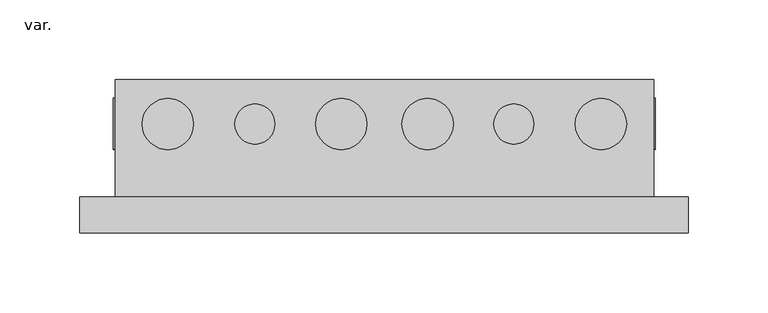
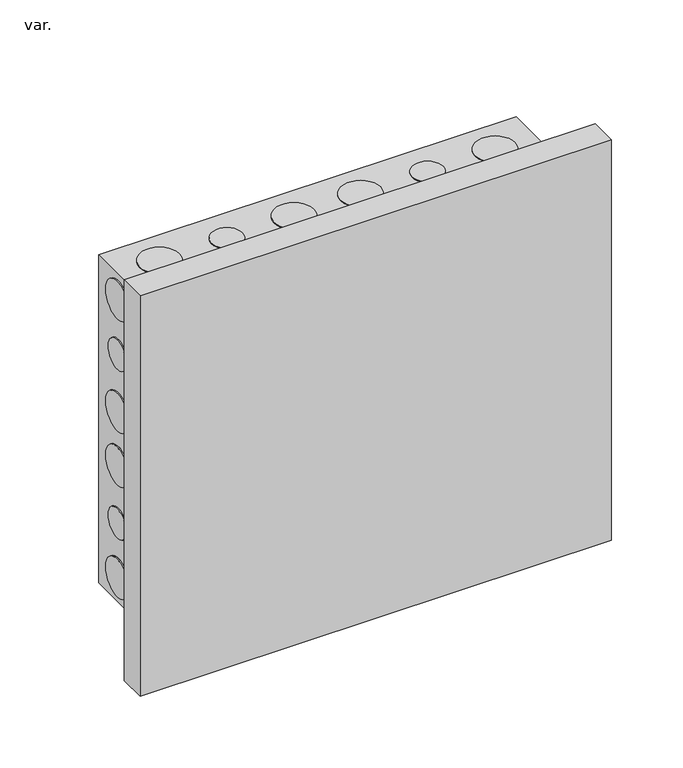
"""IFC4 building model written with IfcOpenShell, lengths in millimetres: pipe fitting geometry, AmancoWavin_ConexõesdoConduite_LinhaEletricaCorrugadoCuadroDistribucao24D : var.."""

import ifcopenshell
import ifcopenshell.guid

model = None  # the IFC model being written
_history = None  # IfcOwnerHistory: only IFC2X3 demands one
_inside = {}  # id of a spatial element -> (the spatial element, [elements in it])
_under = {}  # id of a project, library or spatial element -> (it, [spatial elements below it])
_declared = {}  # id of a project -> (the project, [libraries it declares])
_typed = {}  # id of a type object -> (the type object, [elements of that type])
_made_of = {}  # id of a material, layer set ... -> (it, [elements and type objects made of it])


def new_model(schema):
    """Start an empty IFC model of exactly this schema.

    Asked for "IFC4X3", IfcOpenShell would pick the latest addendum, in which some entities
    have other attributes; the version numbers below select the first issue.
    IFC2X3 requires an IfcOwnerHistory on every rooted entity: one is made here for all.
    """
    global model, _history
    if schema == "IFC4X3":
        model = ifcopenshell.file(schema_version=(4, 3, 0, 0))
    else:
        model = ifcopenshell.file(schema=schema)
    _inside.clear()
    _under.clear()
    _declared.clear()
    _typed.clear()
    _made_of.clear()
    _history = None
    if model.schema == "IFC2X3":
        org = make("IfcOrganization", Name="unknown")
        user = make(
            "IfcPersonAndOrganization",
            ThePerson=make("IfcPerson", FamilyName="unknown"),
            TheOrganization=org,
        )
        app = make(
            "IfcApplication",
            ApplicationDeveloper=org,
            Version="unknown",
            ApplicationFullName="unknown",
            ApplicationIdentifier="unknown",
        )
        _history = make(
            "IfcOwnerHistory",
            OwningUser=user,
            OwningApplication=app,
            ChangeAction="ADDED",
            CreationDate=0,
        )
    return model


def make(cls, **values):
    """One entity of the class cls with the attributes given. An attribute that is None is left unset."""
    return model.create_entity(
        cls, **{name: value for name, value in values.items() if value is not None}
    )


def rooted(cls, **values):
    """An entity with a GlobalId (a new one), such as an element, a storey or a relation."""
    return make(cls, GlobalId=ifcopenshell.guid.new(), OwnerHistory=_history, **values)


def si_unit(unit_type, name, prefix=None):
    """IfcSIUnit, for example si_unit("LENGTHUNIT", "METRE", prefix="MILLI")."""
    return make("IfcSIUnit", UnitType=unit_type, Prefix=prefix, Name=name)


def assignment(units):
    """IfcUnitAssignment: the units of a project."""
    return None if units is None else make("IfcUnitAssignment", Units=units)


def point(xyz):
    """IfcCartesianPoint."""
    return None if xyz is None else make("IfcCartesianPoint", Coordinates=xyz)


def direction(xyz):
    """IfcDirection."""
    return None if xyz is None else make("IfcDirection", DirectionRatios=xyz)


def frame(location, z_axis=None, x_axis=None):
    """IfcAxis2Placement3D, a coordinate frame: its origin and axes. An axis left out is left unset."""
    return make(
        "IfcAxis2Placement3D",
        Location=point(location),
        Axis=direction(z_axis),
        RefDirection=direction(x_axis),
    )


def origin():
    """The frame at (0, 0, 0) with its axes left unset."""
    return frame((0.0, 0.0, 0.0))


def place(relative_to, where):
    """IfcLocalPlacement: puts the frame where relative to a parent placement (None: the world)."""
    return make(
        "IfcLocalPlacement", PlacementRelTo=relative_to, RelativePlacement=where
    )


def context(
    kind, dimensions, precision=None, world=None, true_north=None, identifier=None
):
    """IfcGeometricRepresentationContext, for example the 3D "Model" context."""
    return make(
        "IfcGeometricRepresentationContext",
        ContextIdentifier=identifier,
        ContextType=kind,
        CoordinateSpaceDimension=dimensions,
        Precision=precision,
        WorldCoordinateSystem=world,
        TrueNorth=true_north,
    )


def project(units=None, contexts=None):
    """IfcProject with its units and contexts."""
    return rooted(
        "IfcProject",
        Name="project",
        RepresentationContexts=contexts,
        UnitsInContext=assignment(units),
    )


def spatial(cls, under=None, at=None, **own):
    """A site, building, storey or space (cls), placed at a placement, below another one or the project."""
    s = rooted(cls, ObjectPlacement=at, **own)
    if under is not None:
        _under.setdefault(under.id(), (under, []))[1].append(s)
    return s


def polyline(points):
    """IfcPolyline through the points."""
    return make("IfcPolyline", Points=[point(p) for p in points])


def circle_curve(where, radius):
    """IfcCircle in the frame where."""
    return make("IfcCircle", Position=where, Radius=radius)


def shape(context_of_items, identifier, shape_type, items):
    """IfcShapeRepresentation: the items that make up one representation, for example the "Body"."""
    return make(
        "IfcShapeRepresentation",
        ContextOfItems=context_of_items,
        RepresentationIdentifier=identifier,
        RepresentationType=shape_type,
        Items=items,
    )


def source(mapping_origin, context_of_items, identifier, shape_type, items):
    """IfcRepresentationMap: a shape defined once, which mapped items show again and again."""
    return make(
        "IfcRepresentationMap",
        MappingOrigin=mapping_origin,
        MappedRepresentation=shape(context_of_items, identifier, shape_type, items),
    )


def transform(
    local_origin,
    x_axis=None,
    y_axis=None,
    z_axis=None,
    scale=None,
    scale2=None,
    scale3=None,
    uniform=True,
):
    """IfcCartesianTransformationOperator3D, or its non-uniform kind. x_axis, y_axis, z_axis: its Axis1, 2, 3."""
    if uniform:
        return make(
            "IfcCartesianTransformationOperator3D",
            Axis1=direction(x_axis),
            Axis2=direction(y_axis),
            LocalOrigin=point(local_origin),
            Scale=scale,
            Axis3=direction(z_axis),
        )
    return make(
        "IfcCartesianTransformationOperator3DnonUniform",
        Axis1=direction(x_axis),
        Axis2=direction(y_axis),
        LocalOrigin=point(local_origin),
        Scale=scale,
        Axis3=direction(z_axis),
        Scale2=scale2,
        Scale3=scale3,
    )


def mapped(mapping_source, mapping_target):
    """IfcMappedItem: shows the shape of a source again, moved by a transform."""
    return make(
        "IfcMappedItem", MappingSource=mapping_source, MappingTarget=mapping_target
    )


def made_of(thing, what):
    """Note that an element or type object is made of a material, layer set ...; save() writes the relation."""
    if what is not None:
        _made_of.setdefault(what.id(), (what, []))[1].append(thing)
    return thing


def element(
    cls,
    number,
    at=None,
    inside=None,
    cuts=None,
    type_object=None,
    material=None,
    context=None,
    identifier="Body",
    shape_type=None,
    held_by="IfcProductDefinitionShape",
    body=None,
    shapes=None,
    **own,
):
    """One element of the class cls, such as IfcWall. Its Tag is "e" and its number.

    at: its placement. inside: the storey or other place that contains it. cuts: it is an
    opening in that element (IfcRelVoidsElement). A single representation is given by context,
    identifier, shape_type and body (its items); several are given by shapes. held_by: the class
    of the entity that holds the representations. save() writes the other relations.
    """
    e = rooted(cls, Tag="e%d" % number, ObjectPlacement=at, **own)
    if body is not None:
        shapes = [shape(context, identifier, shape_type, body)]
    if shapes is not None:
        e.Representation = make(held_by, Representations=shapes)
    if inside is not None:
        _inside.setdefault(inside.id(), (inside, []))[1].append(e)
    if cuts is not None:
        rooted(
            "IfcRelVoidsElement", RelatingBuildingElement=cuts, RelatedOpeningElement=e
        )
    if type_object is not None:
        _typed.setdefault(type_object.id(), (type_object, []))[1].append(e)
    return made_of(e, material)


def aggregate(whole, parts):
    """IfcRelAggregates: a whole, such as a stair, and the parts it consists of."""
    return rooted("IfcRelAggregates", RelatingObject=whole, RelatedObjects=parts)


def save(model, path):
    """Write the relations noted so far, then the file.

    IfcRelAggregates (storeys below a building ...), IfcRelContainedInSpatialStructure (elements
    in a storey), IfcRelDefinesByType, IfcRelAssociatesMaterial and IfcRelDeclares: one each for
    every whole, place, type object, material and project.
    """
    for whole, parts in _under.values():
        aggregate(whole, parts)
    for where, things in _inside.values():
        rooted(
            "IfcRelContainedInSpatialStructure",
            RelatedElements=things,
            RelatingStructure=where,
        )
    for kind, things in _typed.values():
        rooted("IfcRelDefinesByType", RelatedObjects=things, RelatingType=kind)
    for what, things in _made_of.values():
        rooted("IfcRelAssociatesMaterial", RelatedObjects=things, RelatingMaterial=what)
    for by, libraries in _declared.values():
        rooted("IfcRelDeclares", RelatingContext=by, RelatedDefinitions=libraries)
    model.write(path)


def plane_surface(at):
    """IfcPlane: the flat surface through the origin of the frame at, square to its z axis."""
    return make("IfcPlane", Position=at)


def cylinder_surface(at, radius):
    """IfcCylindricalSurface: all points at the distance radius from the z axis of the frame at."""
    return make("IfcCylindricalSurface", Position=at, Radius=radius)


def revolved_surface(curve, axis_point, axis_direction):
    """IfcSurfaceOfRevolution: the curve turned about the line through axis_point along axis_direction."""
    return make(
        "IfcSurfaceOfRevolution",
        SweptCurve=make("IfcArbitraryOpenProfileDef", ProfileType="CURVE", Curve=curve),
        AxisPosition=make("IfcAxis1Placement", Location=point(axis_point), Axis=direction(axis_direction)),
    )


def advanced_brep(points, edges, surfaces, faces):
    """IfcAdvancedBrep: a solid bounded by faces that lie on surfaces and meet in shared edges.

    An edge is (start, end): straight between two places in points (the first is 0);
    or (start, end, curve); or (start, end, curve, False) where it runs against its curve.
    A face is (place in surfaces, loops), or (place, loops, False) where it looks against
    its surface's normal. A loop lists edges by number (the first is 1), with a minus sign
    where the edge is run from its end to its start. The first loop is the outer one.
    """
    corners = [point(p) for p in points]
    vertices = [make("IfcVertexPoint", VertexGeometry=c) for c in corners]
    made = []
    for start, end, *more in edges:
        made.append(
            make(
                "IfcEdgeCurve",
                EdgeStart=vertices[start],
                EdgeEnd=vertices[end],
                EdgeGeometry=more[0] if more else make("IfcPolyline", Points=[corners[start], corners[end]]),
                SameSense=more[1] if len(more) > 1 else True,
            )
        )
    hull = []
    for where, loops, *sense in faces:
        bounds = []
        for j, loop in enumerate(loops):
            ring = [make("IfcOrientedEdge", EdgeElement=made[abs(k) - 1], Orientation=k > 0) for k in loop]
            bounds.append(
                make(
                    "IfcFaceOuterBound" if j == 0 else "IfcFaceBound",
                    Bound=make("IfcEdgeLoop", EdgeList=ring),
                    Orientation=True,
                )
            )
        hull.append(make("IfcAdvancedFace", Bounds=bounds, FaceSurface=surfaces[where], SameSense=sense[0] if sense else True))
    return make("IfcAdvancedBrep", Outer=make("IfcClosedShell", CfsFaces=hull))


def var_b8f45ad4(model_context):
    return source(origin(), model_context, "Body", "AdvancedBrep", [
        advanced_brep(
        [(190.0, 22.5, 171.0), (190.0, 22.5, -171.0), (-190.5, 22.5, -171.0), (-190.5, 22.5, 171.0), (168.5, 22.5, -140.0), (168.5, 22.5, 140.0), (-168.5, 22.5, 140.0), (-168.5, 22.5, -140.0), (190.0, 0.0, 171.0), (190.0, 0.0, -171.0), (-190.5, 0.0, -171.0), (-190.5, 0.0, 171.0), (168.5, 96.0, 140.0), (168.5, 96.0, -140.0), (-168.5, 96.0, -140.0), (-168.5, 96.0, 140.0), (-132.5, 96.0, 110.0), (-157.5, 96.0, 110.0), (-92.434244, 96.0, 110.0), (-124.434244, 96.0, 110.0), (132.5, 96.0, 110.0), (157.5, 96.0, 110.0), (92.434244, 96.0, 110.0), (124.434244, 96.0, 110.0), (-132.5, 96.0, -110.0), (-157.5, 96.0, -110.0), (-92.434244, 96.0, -110.0), (-124.434244, 96.0, -110.0), (132.5, 96.0, -110.0), (157.5, 96.0, -110.0), (92.434244, 96.0, -110.0), (124.434244, 96.0, -110.0), (168.5, 52.5, 23.0), (168.5, 84.5, 23.0), (168.5, 56.0, 72.0), (168.5, 81.0, 72.0), (168.5, 52.5, 118.5), (168.5, 84.5, 118.5), (168.5, 52.5, -23.0), (168.5, 84.5, -23.0), (168.5, 56.0, -72.0), (168.5, 81.0, -72.0), (168.5, 52.5, -118.5), (168.5, 84.5, -118.5), (-151.5, 68.3, -140.0), (-119.5, 68.3, -140.0), (-93.5, 68.3, -140.0), (-68.5, 68.3, -140.0), (-43.0, 68.3, -140.0), (-11.0, 68.3, -140.0), (151.5, 68.3, -140.0), (119.5, 68.3, -140.0), (93.5, 68.3, -140.0), (68.5, 68.3, -140.0), (43.0, 68.3, -140.0), (11.0, 68.3, -140.0), (-168.5, 84.5, 23.0), (-168.5, 52.5, 23.0), (-168.5, 81.0, 72.0), (-168.5, 56.0, 72.0), (-168.5, 84.5, 118.5), (-168.5, 52.5, 118.5), (-168.5, 84.5, -23.0), (-168.5, 52.5, -23.0), (-168.5, 81.0, -72.0), (-168.5, 56.0, -72.0), (-168.5, 84.5, -118.5), (-168.5, 52.5, -118.5), (-119.5, 68.3, 140.0), (-151.5, 68.3, 140.0), (-68.5, 68.3, 140.0), (-93.5, 68.3, 140.0), (-11.0, 68.3, 140.0), (-43.0, 68.3, 140.0), (119.5, 68.3, 140.0), (151.5, 68.3, 140.0), (68.5, 68.3, 140.0), (93.5, 68.3, 140.0), (11.0, 68.3, 140.0), (43.0, 68.3, 140.0), (-157.5, 95.0, 110.0), (-132.5, 95.0, 110.0), (-124.434244, 95.0, 110.0), (-92.434244, 95.0, 110.0), (157.5, 95.0, 110.0), (132.5, 95.0, 110.0), (124.434244, 95.0, 110.0), (92.434244, 95.0, 110.0), (-157.5, 95.0, -110.0), (-132.5, 95.0, -110.0), (-124.434244, 95.0, -110.0), (-92.434244, 95.0, -110.0), (157.5, 95.0, -110.0), (132.5, 95.0, -110.0), (124.434244, 95.0, -110.0), (92.434244, 95.0, -110.0), (-169.5, 52.5, 23.0), (-169.5, 84.5, 23.0), (-169.5, 56.0, 72.0), (-169.5, 81.0, 72.0), (-169.5, 52.5, 118.5), (-169.5, 84.5, 118.5), (-169.5, 52.5, -23.0), (-169.5, 84.5, -23.0), (-169.5, 56.0, -72.0), (-169.5, 81.0, -72.0), (-169.5, 52.5, -118.5), (-169.5, 84.5, -118.5), (169.5, 52.5, 23.0), (169.5, 84.5, 23.0), (169.5, 56.0, 72.0), (169.5, 81.0, 72.0), (169.5, 52.5, 118.5), (169.5, 84.5, 118.5), (169.5, 52.5, -23.0), (169.5, 84.5, -23.0), (169.5, 56.0, -72.0), (169.5, 81.0, -72.0), (169.5, 52.5, -118.5), (169.5, 84.5, -118.5), (-151.5, 68.3, 140.692314), (-119.5, 68.3, 140.692314), (-93.5, 68.3, 140.692314), (-68.5, 68.3, 140.692314), (-43.0, 68.3, 140.692314), (-11.0, 68.3, 140.692314), (151.5, 68.3, 140.692314), (119.5, 68.3, 140.692314), (93.5, 68.3, 140.692314), (68.5, 68.3, 140.692314), (43.0, 68.3, 140.692314), (11.0, 68.3, 140.692314), (-151.5, 68.3, -140.5654211), (-119.5, 68.3, -140.5654211), (-93.5, 68.3, -140.5654211), (-68.5, 68.3, -140.5654211), (-43.0, 68.3, -140.5654211), (-11.0, 68.3, -140.5654211), (151.5, 68.3, -140.5654211), (119.5, 68.3, -140.5654211), (93.5, 68.3, -140.5654211), (68.5, 68.3, -140.5654211), (43.0, 68.3, -140.5654211), (11.0, 68.3, -140.5654211)],
        [
            (0, 1),
            (1, 2),
            (2, 3),
            (3, 0),
            (4, 5),
            (5, 6),
            (6, 7),
            (7, 4),
            (0, 8),
            (8, 9),
            (9, 1),
            (9, 10),
            (10, 2),
            (10, 11),
            (11, 3),
            (11, 8),
            (12, 13),
            (13, 14),
            (14, 15),
            (15, 12),
            (16, 17, circle_curve(frame((-145.0, 96.0, 110.0), z_axis=(0.0, -1.0, 0.0), x_axis=(1.0, 0.0, 0.0)), 12.5)),
            (17, 16, circle_curve(frame((-145.0, 96.0, 110.0), z_axis=(0.0, -1.0, 0.0), x_axis=(1.0, 0.0, 0.0)), 12.5)),
            (18, 19, circle_curve(frame((-108.434244, 96.0, 110.0), z_axis=(0.0, -1.0, 0.0), x_axis=(1.0, 0.0, 0.0)), 16.0)),
            (19, 18, circle_curve(frame((-108.434244, 96.0, 110.0), z_axis=(0.0, -1.0, 0.0), x_axis=(1.0, 0.0, 0.0)), 16.0)),
            (20, 21, circle_curve(frame((145.0, 96.0, 110.0), z_axis=(0.0, -1.0, 0.0), x_axis=(-1.0, 0.0, 0.0)), 12.5)),
            (21, 20, circle_curve(frame((145.0, 96.0, 110.0), z_axis=(0.0, -1.0, 0.0), x_axis=(-1.0, 0.0, 0.0)), 12.5)),
            (22, 23, circle_curve(frame((108.434244, 96.0, 110.0), z_axis=(0.0, -1.0, 0.0), x_axis=(-1.0, 0.0, 0.0)), 16.0)),
            (23, 22, circle_curve(frame((108.434244, 96.0, 110.0), z_axis=(0.0, -1.0, 0.0), x_axis=(-1.0, 0.0, 0.0)), 16.0)),
            (24, 25, circle_curve(frame((-145.0, 96.0, -110.0), z_axis=(0.0, -1.0, 0.0), x_axis=(1.0, 0.0, 0.0)), 12.5)),
            (25, 24, circle_curve(frame((-145.0, 96.0, -110.0), z_axis=(0.0, -1.0, 0.0), x_axis=(1.0, 0.0, 0.0)), 12.5)),
            (26, 27, circle_curve(frame((-108.434244, 96.0, -110.0), z_axis=(0.0, -1.0, 0.0), x_axis=(1.0, 0.0, 0.0)), 16.0)),
            (27, 26, circle_curve(frame((-108.434244, 96.0, -110.0), z_axis=(0.0, -1.0, 0.0), x_axis=(1.0, 0.0, 0.0)), 16.0)),
            (28, 29, circle_curve(frame((145.0, 96.0, -110.0), z_axis=(0.0, -1.0, 0.0), x_axis=(-1.0, 0.0, 0.0)), 12.5)),
            (29, 28, circle_curve(frame((145.0, 96.0, -110.0), z_axis=(0.0, -1.0, 0.0), x_axis=(-1.0, 0.0, 0.0)), 12.5)),
            (30, 31, circle_curve(frame((108.434244, 96.0, -110.0), z_axis=(0.0, -1.0, 0.0), x_axis=(-1.0, 0.0, 0.0)), 16.0)),
            (31, 30, circle_curve(frame((108.434244, 96.0, -110.0), z_axis=(0.0, -1.0, 0.0), x_axis=(-1.0, 0.0, 0.0)), 16.0)),
            (12, 5),
            (4, 13),
            (32, 33, circle_curve(frame((168.5, 68.5, 23.0), z_axis=(-1.0, 0.0, 0.0), x_axis=(0.0, 1.0, 0.0)), 16.0)),
            (33, 32, circle_curve(frame((168.5, 68.5, 23.0), z_axis=(-1.0, 0.0, 0.0), x_axis=(0.0, 1.0, 0.0)), 16.0)),
            (34, 35, circle_curve(frame((168.5, 68.5, 72.0), z_axis=(-1.0, 0.0, 0.0), x_axis=(0.0, 1.0, 0.0)), 12.5)),
            (35, 34, circle_curve(frame((168.5, 68.5, 72.0), z_axis=(-1.0, 0.0, 0.0), x_axis=(0.0, 1.0, 0.0)), 12.5)),
            (36, 37, circle_curve(frame((168.5, 68.5, 118.5), z_axis=(-1.0, 0.0, 0.0), x_axis=(0.0, 1.0, 0.0)), 16.0)),
            (37, 36, circle_curve(frame((168.5, 68.5, 118.5), z_axis=(-1.0, 0.0, 0.0), x_axis=(0.0, 1.0, 0.0)), 16.0)),
            (38, 39, circle_curve(frame((168.5, 68.5, -23.0), z_axis=(-1.0, 0.0, 0.0), x_axis=(0.0, 1.0, 0.0)), 16.0)),
            (39, 38, circle_curve(frame((168.5, 68.5, -23.0), z_axis=(-1.0, 0.0, 0.0), x_axis=(0.0, 1.0, 0.0)), 16.0)),
            (40, 41, circle_curve(frame((168.5, 68.5, -72.0), z_axis=(-1.0, 0.0, 0.0), x_axis=(0.0, 1.0, 0.0)), 12.5)),
            (41, 40, circle_curve(frame((168.5, 68.5, -72.0), z_axis=(-1.0, 0.0, 0.0), x_axis=(0.0, 1.0, 0.0)), 12.5)),
            (42, 43, circle_curve(frame((168.5, 68.5, -118.5), z_axis=(-1.0, 0.0, 0.0), x_axis=(0.0, 1.0, 0.0)), 16.0)),
            (43, 42, circle_curve(frame((168.5, 68.5, -118.5), z_axis=(-1.0, 0.0, 0.0), x_axis=(0.0, 1.0, 0.0)), 16.0)),
            (7, 14),
            (44, 45, circle_curve(frame((-135.5, 68.3, -140.0), z_axis=(0.0, 0.0, 1.0), x_axis=(1.0, 0.0, 0.0)), 16.0)),
            (45, 44, circle_curve(frame((-135.5, 68.3, -140.0), z_axis=(0.0, 0.0, 1.0), x_axis=(1.0, 0.0, 0.0)), 16.0)),
            (46, 47, circle_curve(frame((-81.0, 68.3, -140.0), z_axis=(0.0, 0.0, 1.0), x_axis=(1.0, 0.0, 0.0)), 12.5)),
            (47, 46, circle_curve(frame((-81.0, 68.3, -140.0), z_axis=(0.0, 0.0, 1.0), x_axis=(1.0, 0.0, 0.0)), 12.5)),
            (48, 49, circle_curve(frame((-27.0, 68.3, -140.0), z_axis=(0.0, 0.0, 1.0), x_axis=(1.0, 0.0, 0.0)), 16.0)),
            (49, 48, circle_curve(frame((-27.0, 68.3, -140.0), z_axis=(0.0, 0.0, 1.0), x_axis=(1.0, 0.0, 0.0)), 16.0)),
            (50, 51, circle_curve(frame((135.5, 68.3, -140.0), z_axis=(0.0, 0.0, 1.0), x_axis=(-1.0, 0.0, 0.0)), 16.0)),
            (51, 50, circle_curve(frame((135.5, 68.3, -140.0), z_axis=(0.0, 0.0, 1.0), x_axis=(-1.0, 0.0, 0.0)), 16.0)),
            (52, 53, circle_curve(frame((81.0, 68.3, -140.0), z_axis=(0.0, 0.0, 1.0), x_axis=(-1.0, 0.0, 0.0)), 12.5)),
            (53, 52, circle_curve(frame((81.0, 68.3, -140.0), z_axis=(0.0, 0.0, 1.0), x_axis=(-1.0, 0.0, 0.0)), 12.5)),
            (54, 55, circle_curve(frame((27.0, 68.3, -140.0), z_axis=(0.0, 0.0, 1.0), x_axis=(-1.0, 0.0, 0.0)), 16.0)),
            (55, 54, circle_curve(frame((27.0, 68.3, -140.0), z_axis=(0.0, 0.0, 1.0), x_axis=(-1.0, 0.0, 0.0)), 16.0)),
            (6, 15),
            (56, 57, circle_curve(frame((-168.5, 68.5, 23.0), z_axis=(1.0, 0.0, 0.0), x_axis=(0.0, 1.0, 0.0)), 16.0)),
            (57, 56, circle_curve(frame((-168.5, 68.5, 23.0), z_axis=(1.0, 0.0, 0.0), x_axis=(0.0, 1.0, 0.0)), 16.0)),
            (58, 59, circle_curve(frame((-168.5, 68.5, 72.0), z_axis=(1.0, 0.0, 0.0), x_axis=(0.0, 1.0, 0.0)), 12.5)),
            (59, 58, circle_curve(frame((-168.5, 68.5, 72.0), z_axis=(1.0, 0.0, 0.0), x_axis=(0.0, 1.0, 0.0)), 12.5)),
            (60, 61, circle_curve(frame((-168.5, 68.5, 118.5), z_axis=(1.0, 0.0, 0.0), x_axis=(0.0, 1.0, 0.0)), 16.0)),
            (61, 60, circle_curve(frame((-168.5, 68.5, 118.5), z_axis=(1.0, 0.0, 0.0), x_axis=(0.0, 1.0, 0.0)), 16.0)),
            (62, 63, circle_curve(frame((-168.5, 68.5, -23.0), z_axis=(1.0, 0.0, 0.0), x_axis=(0.0, 1.0, 0.0)), 16.0)),
            (63, 62, circle_curve(frame((-168.5, 68.5, -23.0), z_axis=(1.0, 0.0, 0.0), x_axis=(0.0, 1.0, 0.0)), 16.0)),
            (64, 65, circle_curve(frame((-168.5, 68.5, -72.0), z_axis=(1.0, 0.0, 0.0), x_axis=(0.0, 1.0, 0.0)), 12.5)),
            (65, 64, circle_curve(frame((-168.5, 68.5, -72.0), z_axis=(1.0, 0.0, 0.0), x_axis=(0.0, 1.0, 0.0)), 12.5)),
            (66, 67, circle_curve(frame((-168.5, 68.5, -118.5), z_axis=(1.0, 0.0, 0.0), x_axis=(0.0, 1.0, 0.0)), 16.0)),
            (67, 66, circle_curve(frame((-168.5, 68.5, -118.5), z_axis=(1.0, 0.0, 0.0), x_axis=(0.0, 1.0, 0.0)), 16.0)),
            (68, 69, circle_curve(frame((-135.5, 68.3, 140.0), z_axis=(0.0, 0.0, -1.0), x_axis=(1.0, 0.0, 0.0)), 16.0)),
            (69, 68, circle_curve(frame((-135.5, 68.3, 140.0), z_axis=(0.0, 0.0, -1.0), x_axis=(1.0, 0.0, 0.0)), 16.0)),
            (70, 71, circle_curve(frame((-81.0, 68.3, 140.0), z_axis=(0.0, 0.0, -1.0), x_axis=(1.0, 0.0, 0.0)), 12.5)),
            (71, 70, circle_curve(frame((-81.0, 68.3, 140.0), z_axis=(0.0, 0.0, -1.0), x_axis=(1.0, 0.0, 0.0)), 12.5)),
            (72, 73, circle_curve(frame((-27.0, 68.3, 140.0), z_axis=(0.0, 0.0, -1.0), x_axis=(1.0, 0.0, 0.0)), 16.0)),
            (73, 72, circle_curve(frame((-27.0, 68.3, 140.0), z_axis=(0.0, 0.0, -1.0), x_axis=(1.0, 0.0, 0.0)), 16.0)),
            (74, 75, circle_curve(frame((135.5, 68.3, 140.0), z_axis=(0.0, 0.0, -1.0), x_axis=(-1.0, 0.0, 0.0)), 16.0)),
            (75, 74, circle_curve(frame((135.5, 68.3, 140.0), z_axis=(0.0, 0.0, -1.0), x_axis=(-1.0, 0.0, 0.0)), 16.0)),
            (76, 77, circle_curve(frame((81.0, 68.3, 140.0), z_axis=(0.0, 0.0, -1.0), x_axis=(-1.0, 0.0, 0.0)), 12.5)),
            (77, 76, circle_curve(frame((81.0, 68.3, 140.0), z_axis=(0.0, 0.0, -1.0), x_axis=(-1.0, 0.0, 0.0)), 12.5)),
            (78, 79, circle_curve(frame((27.0, 68.3, 140.0), z_axis=(0.0, 0.0, -1.0), x_axis=(-1.0, 0.0, 0.0)), 16.0)),
            (79, 78, circle_curve(frame((27.0, 68.3, 140.0), z_axis=(0.0, 0.0, -1.0), x_axis=(-1.0, 0.0, 0.0)), 16.0)),
            (80, 81, circle_curve(frame((-145.0, 95.0, 110.0), z_axis=(0.0, 1.0, 0.0), x_axis=(1.0, 0.0, 0.0)), 12.5)),
            (81, 80, circle_curve(frame((-145.0, 95.0, 110.0), z_axis=(0.0, 1.0, 0.0), x_axis=(1.0, 0.0, 0.0)), 12.5)),
            (82, 83, circle_curve(frame((-108.434244, 95.0, 110.0), z_axis=(0.0, 1.0, 0.0), x_axis=(1.0, 0.0, 0.0)), 16.0)),
            (83, 82, circle_curve(frame((-108.434244, 95.0, 110.0), z_axis=(0.0, 1.0, 0.0), x_axis=(1.0, 0.0, 0.0)), 16.0)),
            (84, 85, circle_curve(frame((145.0, 95.0, 110.0), z_axis=(0.0, 1.0, 0.0), x_axis=(-1.0, 0.0, 0.0)), 12.5)),
            (85, 84, circle_curve(frame((145.0, 95.0, 110.0), z_axis=(0.0, 1.0, 0.0), x_axis=(-1.0, 0.0, 0.0)), 12.5)),
            (86, 87, circle_curve(frame((108.434244, 95.0, 110.0), z_axis=(0.0, 1.0, 0.0), x_axis=(-1.0, 0.0, 0.0)), 16.0)),
            (87, 86, circle_curve(frame((108.434244, 95.0, 110.0), z_axis=(0.0, 1.0, 0.0), x_axis=(-1.0, 0.0, 0.0)), 16.0)),
            (88, 89, circle_curve(frame((-145.0, 95.0, -110.0), z_axis=(0.0, 1.0, 0.0), x_axis=(1.0, 0.0, 0.0)), 12.5)),
            (89, 88, circle_curve(frame((-145.0, 95.0, -110.0), z_axis=(0.0, 1.0, 0.0), x_axis=(1.0, 0.0, 0.0)), 12.5)),
            (90, 91, circle_curve(frame((-108.434244, 95.0, -110.0), z_axis=(0.0, 1.0, 0.0), x_axis=(1.0, 0.0, 0.0)), 16.0)),
            (91, 90, circle_curve(frame((-108.434244, 95.0, -110.0), z_axis=(0.0, 1.0, 0.0), x_axis=(1.0, 0.0, 0.0)), 16.0)),
            (92, 93, circle_curve(frame((145.0, 95.0, -110.0), z_axis=(0.0, 1.0, 0.0), x_axis=(-1.0, 0.0, 0.0)), 12.5)),
            (93, 92, circle_curve(frame((145.0, 95.0, -110.0), z_axis=(0.0, 1.0, 0.0), x_axis=(-1.0, 0.0, 0.0)), 12.5)),
            (94, 95, circle_curve(frame((108.434244, 95.0, -110.0), z_axis=(0.0, 1.0, 0.0), x_axis=(-1.0, 0.0, 0.0)), 16.0)),
            (95, 94, circle_curve(frame((108.434244, 95.0, -110.0), z_axis=(0.0, 1.0, 0.0), x_axis=(-1.0, 0.0, 0.0)), 16.0)),
            (80, 17),
            (16, 81),
            (82, 19),
            (18, 83),
            (96, 97, circle_curve(frame((-169.5, 68.5, 23.0), z_axis=(-1.0, 0.0, 0.0), x_axis=(0.0, 1.0, 0.0)), 16.0)),
            (97, 96, circle_curve(frame((-169.5, 68.5, 23.0), z_axis=(-1.0, 0.0, 0.0), x_axis=(0.0, 1.0, 0.0)), 16.0)),
            (98, 99, circle_curve(frame((-169.5, 68.5, 72.0), z_axis=(-1.0, 0.0, 0.0), x_axis=(0.0, 1.0, 0.0)), 12.5)),
            (99, 98, circle_curve(frame((-169.5, 68.5, 72.0), z_axis=(-1.0, 0.0, 0.0), x_axis=(0.0, 1.0, 0.0)), 12.5)),
            (100, 101, circle_curve(frame((-169.5, 68.5, 118.5), z_axis=(-1.0, 0.0, 0.0), x_axis=(0.0, 1.0, 0.0)), 16.0)),
            (101, 100, circle_curve(frame((-169.5, 68.5, 118.5), z_axis=(-1.0, 0.0, 0.0), x_axis=(0.0, 1.0, 0.0)), 16.0)),
            (102, 103, circle_curve(frame((-169.5, 68.5, -23.0), z_axis=(-1.0, 0.0, 0.0), x_axis=(0.0, 1.0, 0.0)), 16.0)),
            (103, 102, circle_curve(frame((-169.5, 68.5, -23.0), z_axis=(-1.0, 0.0, 0.0), x_axis=(0.0, 1.0, 0.0)), 16.0)),
            (104, 105, circle_curve(frame((-169.5, 68.5, -72.0), z_axis=(-1.0, 0.0, 0.0), x_axis=(0.0, 1.0, 0.0)), 12.5)),
            (105, 104, circle_curve(frame((-169.5, 68.5, -72.0), z_axis=(-1.0, 0.0, 0.0), x_axis=(0.0, 1.0, 0.0)), 12.5)),
            (106, 107, circle_curve(frame((-169.5, 68.5, -118.5), z_axis=(-1.0, 0.0, 0.0), x_axis=(0.0, 1.0, 0.0)), 16.0)),
            (107, 106, circle_curve(frame((-169.5, 68.5, -118.5), z_axis=(-1.0, 0.0, 0.0), x_axis=(0.0, 1.0, 0.0)), 16.0)),
            (108, 109, circle_curve(frame((169.5, 68.5, 23.0), z_axis=(1.0, 0.0, 0.0), x_axis=(0.0, 1.0, 0.0)), 16.0)),
            (109, 108, circle_curve(frame((169.5, 68.5, 23.0), z_axis=(1.0, 0.0, 0.0), x_axis=(0.0, 1.0, 0.0)), 16.0)),
            (110, 111, circle_curve(frame((169.5, 68.5, 72.0), z_axis=(1.0, 0.0, 0.0), x_axis=(0.0, 1.0, 0.0)), 12.5)),
            (111, 110, circle_curve(frame((169.5, 68.5, 72.0), z_axis=(1.0, 0.0, 0.0), x_axis=(0.0, 1.0, 0.0)), 12.5)),
            (112, 113, circle_curve(frame((169.5, 68.5, 118.5), z_axis=(1.0, 0.0, 0.0), x_axis=(0.0, 1.0, 0.0)), 16.0)),
            (113, 112, circle_curve(frame((169.5, 68.5, 118.5), z_axis=(1.0, 0.0, 0.0), x_axis=(0.0, 1.0, 0.0)), 16.0)),
            (114, 115, circle_curve(frame((169.5, 68.5, -23.0), z_axis=(1.0, 0.0, 0.0), x_axis=(0.0, 1.0, 0.0)), 16.0)),
            (115, 114, circle_curve(frame((169.5, 68.5, -23.0), z_axis=(1.0, 0.0, 0.0), x_axis=(0.0, 1.0, 0.0)), 16.0)),
            (116, 117, circle_curve(frame((169.5, 68.5, -72.0), z_axis=(1.0, 0.0, 0.0), x_axis=(0.0, 1.0, 0.0)), 12.5)),
            (117, 116, circle_curve(frame((169.5, 68.5, -72.0), z_axis=(1.0, 0.0, 0.0), x_axis=(0.0, 1.0, 0.0)), 12.5)),
            (118, 119, circle_curve(frame((169.5, 68.5, -118.5), z_axis=(1.0, 0.0, 0.0), x_axis=(0.0, 1.0, 0.0)), 16.0)),
            (119, 118, circle_curve(frame((169.5, 68.5, -118.5), z_axis=(1.0, 0.0, 0.0), x_axis=(0.0, 1.0, 0.0)), 16.0)),
            (96, 57),
            (56, 97),
            (109, 33),
            (32, 108),
            (98, 59),
            (58, 99),
            (111, 35),
            (34, 110),
            (100, 61),
            (60, 101),
            (113, 37),
            (36, 112),
            (84, 21),
            (20, 85),
            (86, 23),
            (22, 87),
            (88, 25),
            (24, 89),
            (90, 27),
            (26, 91),
            (92, 29),
            (28, 93),
            (94, 31),
            (30, 95),
            (102, 63),
            (62, 103),
            (115, 39),
            (38, 114),
            (104, 65),
            (64, 105),
            (117, 41),
            (40, 116),
            (106, 67),
            (66, 107),
            (119, 43),
            (42, 118),
            (120, 121, circle_curve(frame((-135.5, 68.3, 140.692314), z_axis=(0.0, 0.0, 1.0), x_axis=(1.0, 0.0, 0.0)), 16.0)),
            (121, 120, circle_curve(frame((-135.5, 68.3, 140.692314), z_axis=(0.0, 0.0, 1.0), x_axis=(1.0, 0.0, 0.0)), 16.0)),
            (122, 123, circle_curve(frame((-81.0, 68.3, 140.692314), z_axis=(0.0, 0.0, 1.0), x_axis=(1.0, 0.0, 0.0)), 12.5)),
            (123, 122, circle_curve(frame((-81.0, 68.3, 140.692314), z_axis=(0.0, 0.0, 1.0), x_axis=(1.0, 0.0, 0.0)), 12.5)),
            (124, 125, circle_curve(frame((-27.0, 68.3, 140.692314), z_axis=(0.0, 0.0, 1.0), x_axis=(1.0, 0.0, 0.0)), 16.0)),
            (125, 124, circle_curve(frame((-27.0, 68.3, 140.692314), z_axis=(0.0, 0.0, 1.0), x_axis=(1.0, 0.0, 0.0)), 16.0)),
            (126, 127, circle_curve(frame((135.5, 68.3, 140.692314), z_axis=(0.0, 0.0, 1.0), x_axis=(-1.0, 0.0, 0.0)), 16.0)),
            (127, 126, circle_curve(frame((135.5, 68.3, 140.692314), z_axis=(0.0, 0.0, 1.0), x_axis=(-1.0, 0.0, 0.0)), 16.0)),
            (128, 129, circle_curve(frame((81.0, 68.3, 140.692314), z_axis=(0.0, 0.0, 1.0), x_axis=(-1.0, 0.0, 0.0)), 12.5)),
            (129, 128, circle_curve(frame((81.0, 68.3, 140.692314), z_axis=(0.0, 0.0, 1.0), x_axis=(-1.0, 0.0, 0.0)), 12.5)),
            (130, 131, circle_curve(frame((27.0, 68.3, 140.692314), z_axis=(0.0, 0.0, 1.0), x_axis=(-1.0, 0.0, 0.0)), 16.0)),
            (131, 130, circle_curve(frame((27.0, 68.3, 140.692314), z_axis=(0.0, 0.0, 1.0), x_axis=(-1.0, 0.0, 0.0)), 16.0)),
            (132, 133, circle_curve(frame((-135.5, 68.3, -140.5654211), z_axis=(0.0, 0.0, -1.0), x_axis=(1.0, 0.0, 0.0)), 16.0)),
            (133, 132, circle_curve(frame((-135.5, 68.3, -140.5654211), z_axis=(0.0, 0.0, -1.0), x_axis=(1.0, 0.0, 0.0)), 16.0)),
            (134, 135, circle_curve(frame((-81.0, 68.3, -140.5654211), z_axis=(0.0, 0.0, -1.0), x_axis=(1.0, 0.0, 0.0)), 12.5)),
            (135, 134, circle_curve(frame((-81.0, 68.3, -140.5654211), z_axis=(0.0, 0.0, -1.0), x_axis=(1.0, 0.0, 0.0)), 12.5)),
            (136, 137, circle_curve(frame((-27.0, 68.3, -140.5654211), z_axis=(0.0, 0.0, -1.0), x_axis=(1.0, 0.0, 0.0)), 16.0)),
            (137, 136, circle_curve(frame((-27.0, 68.3, -140.5654211), z_axis=(0.0, 0.0, -1.0), x_axis=(1.0, 0.0, 0.0)), 16.0)),
            (138, 139, circle_curve(frame((135.5, 68.3, -140.5654211), z_axis=(0.0, 0.0, -1.0), x_axis=(-1.0, 0.0, 0.0)), 16.0)),
            (139, 138, circle_curve(frame((135.5, 68.3, -140.5654211), z_axis=(0.0, 0.0, -1.0), x_axis=(-1.0, 0.0, 0.0)), 16.0)),
            (140, 141, circle_curve(frame((81.0, 68.3, -140.5654211), z_axis=(0.0, 0.0, -1.0), x_axis=(-1.0, 0.0, 0.0)), 12.5)),
            (141, 140, circle_curve(frame((81.0, 68.3, -140.5654211), z_axis=(0.0, 0.0, -1.0), x_axis=(-1.0, 0.0, 0.0)), 12.5)),
            (142, 143, circle_curve(frame((27.0, 68.3, -140.5654211), z_axis=(0.0, 0.0, -1.0), x_axis=(-1.0, 0.0, 0.0)), 16.0)),
            (143, 142, circle_curve(frame((27.0, 68.3, -140.5654211), z_axis=(0.0, 0.0, -1.0), x_axis=(-1.0, 0.0, 0.0)), 16.0)),
            (120, 69),
            (68, 121),
            (133, 45),
            (44, 132),
            (122, 71),
            (70, 123),
            (135, 47),
            (46, 134),
            (124, 73),
            (72, 125),
            (137, 49),
            (48, 136),
            (126, 75),
            (74, 127),
            (139, 51),
            (50, 138),
            (128, 77),
            (76, 129),
            (141, 53),
            (52, 140),
            (130, 79),
            (78, 131),
            (143, 55),
            (54, 142),
        ],
        [
            plane_surface(frame((190.0, 22.5, 200.5423623), z_axis=(0.0, 1.0, 0.0), x_axis=(0.0, 0.0, -1.0))),
            plane_surface(frame((190.0, 22.5, 171.0), z_axis=(1.0, 0.0, 0.0), x_axis=(0.0, -1.0, 0.0))),
            plane_surface(frame((190.0, 22.5, -171.0), z_axis=(0.0, 0.0, -1.0), x_axis=(0.0, -1.0, 0.0))),
            plane_surface(frame((-190.5, 22.5, -171.0), z_axis=(-1.0, 0.0, 0.0), x_axis=(0.0, -1.0, 0.0))),
            plane_surface(frame((-190.5, 22.5, 171.0), z_axis=(0.0, 0.0, 1.0), x_axis=(0.0, -1.0, 0.0))),
            plane_surface(frame((168.5, 96.0, 132.4195146), z_axis=(0.0, 1.0, 0.0), x_axis=(0.0, 0.0, -1.0))),
            plane_surface(frame((168.5, 0.0, 132.4195146), z_axis=(0.0, -1.0, 0.0), x_axis=(0.0, 0.0, 1.0))),
            plane_surface(frame((168.5, 96.0, 140.0), z_axis=(1.0, 0.0, 0.0), x_axis=(0.0, -1.0, 0.0))),
            plane_surface(frame((168.5, 96.0, -140.0), z_axis=(0.0, 0.0, -1.0), x_axis=(0.0, -1.0, 0.0))),
            plane_surface(frame((-168.5, 96.0, -140.0), z_axis=(-1.0, 0.0, 0.0), x_axis=(0.0, -1.0, 0.0))),
            plane_surface(frame((-168.5, 96.0, 140.0), z_axis=(0.0, 0.0, 1.0), x_axis=(0.0, -1.0, 0.0))),
            plane_surface(frame((-132.5, 95.0, 110.0), z_axis=(0.0, 1.0, 0.0), x_axis=(0.0, 0.0, 1.0))),
            revolved_surface(polyline([(-132.5, 96.0, 110.0), (-132.5, 95.0, 110.0)]), (-145.0, 95.0, 110.0), (0.0, 1.0, 0.0)),
            revolved_surface(polyline([(-92.434244, 96.0, 110.0), (-92.434244, 95.0, 110.0)]), (-108.434244, 0.0, 110.0), (0.0, 1.0, 0.0)),
            plane_surface(frame((-169.5, 84.5, 23.0), z_axis=(-1.0, 0.0, 0.0), x_axis=(0.0, 0.0, -1.0))),
            plane_surface(frame((169.5, 84.5, 23.0), z_axis=(1.0, 0.0, 0.0), x_axis=(0.0, 0.0, 1.0))),
            cylinder_surface(frame((169.5, 68.5, 23.0), z_axis=(-1.0, 0.0, 0.0), x_axis=(0.0, 1.0, 0.0)), 16.0),
            cylinder_surface(frame((0.0, 68.5, 72.0), z_axis=(-1.0, 0.0, 0.0), x_axis=(0.0, 1.0, 0.0)), 12.5),
            cylinder_surface(frame((0.0, 68.5, 118.5), z_axis=(-1.0, 0.0, 0.0), x_axis=(0.0, 1.0, 0.0)), 16.0),
            revolved_surface(polyline([(132.5, 96.0, 110.0), (132.5, 95.0, 110.0)]), (145.0, 0.0, 110.0), (0.0, 1.0, 0.0)),
            revolved_surface(polyline([(92.434244, 96.0, 110.0), (92.434244, 95.0, 110.0)]), (108.434244, 0.0, 110.0), (0.0, 1.0, 0.0)),
            revolved_surface(polyline([(-132.5, 96.0, -110.0), (-132.5, 95.0, -110.0)]), (-145.0, 0.0, -110.0), (0.0, 1.0, 0.0)),
            revolved_surface(polyline([(-92.434244, 96.0, -110.0), (-92.434244, 95.0, -110.0)]), (-108.434244, 0.0, -110.0), (0.0, 1.0, 0.0)),
            revolved_surface(polyline([(132.5, 96.0, -110.0), (132.5, 95.0, -110.0)]), (145.0, 0.0, -110.0), (0.0, 1.0, 0.0)),
            revolved_surface(polyline([(92.434244, 96.0, -110.0), (92.434244, 95.0, -110.0)]), (108.434244, 0.0, -110.0), (0.0, 1.0, 0.0)),
            cylinder_surface(frame((0.0, 68.5, -23.0), z_axis=(-1.0, 0.0, 0.0), x_axis=(0.0, 1.0, 0.0)), 16.0),
            cylinder_surface(frame((0.0, 68.5, -72.0), z_axis=(-1.0, 0.0, 0.0), x_axis=(0.0, 1.0, 0.0)), 12.5),
            cylinder_surface(frame((0.0, 68.5, -118.5), z_axis=(-1.0, 0.0, 0.0), x_axis=(0.0, 1.0, 0.0)), 16.0),
            plane_surface(frame((-119.5, 68.3, 140.692314), z_axis=(0.0, 0.0, 1.0), x_axis=(0.0, 1.0, 0.0))),
            plane_surface(frame((-119.5, 68.3, -140.5654211), z_axis=(0.0, 0.0, -1.0), x_axis=(0.0, -1.0, 0.0))),
            cylinder_surface(frame((-135.5, 68.3, -140.5654211), z_axis=(0.0, 0.0, 1.0), x_axis=(1.0, 0.0, 0.0)), 16.0),
            cylinder_surface(frame((-81.0, 68.3, 0.0), z_axis=(0.0, 0.0, 1.0), x_axis=(1.0, 0.0, 0.0)), 12.5),
            cylinder_surface(frame((-27.0, 68.3, 0.0), z_axis=(0.0, 0.0, 1.0), x_axis=(1.0, 0.0, 0.0)), 16.0),
            cylinder_surface(frame((135.5, 68.3, 0.0), z_axis=(0.0, 0.0, 1.0), x_axis=(-1.0, 0.0, 0.0)), 16.0),
            cylinder_surface(frame((81.0, 68.3, 0.0), z_axis=(0.0, 0.0, 1.0), x_axis=(-1.0, 0.0, 0.0)), 12.5),
            cylinder_surface(frame((27.0, 68.3, 0.0), z_axis=(0.0, 0.0, 1.0), x_axis=(-1.0, 0.0, 0.0)), 16.0),
        ],
        [
            (0, [[1, 2, 3, 4], [5, 6, 7, 8]]),
            (1, [[-1, 9, 10, 11]]),
            (2, [[-2, -11, 12, 13]]),
            (3, [[-3, -13, 14, 15]]),
            (4, [[-4, -15, 16, -9]]),
            (5, [[17, 18, 19, 20], [21, 22], [23, 24], [25, 26], [27, 28], [29, 30], [31, 32], [33, 34], [35, 36]]),
            (6, [[-16, -14, -12, -10]]),
            (7, [[-17, 37, -5, 38], [39, 40], [41, 42], [43, 44], [45, 46], [47, 48], [49, 50]]),
            (8, [[-18, -38, -8, 51], [52, 53], [54, 55], [56, 57], [58, 59], [60, 61], [62, 63]]),
            (9, [[-19, -51, -7, 64], [65, 66], [67, 68], [69, 70], [71, 72], [73, 74], [75, 76]]),
            (10, [[-20, -64, -6, -37], [77, 78], [79, 80], [81, 82], [83, 84], [85, 86], [87, 88]]),
            (11, [[89, 90]]),
            (11, [[91, 92]]),
            (11, [[93, 94]]),
            (11, [[95, 96]]),
            (11, [[97, 98]]),
            (11, [[99, 100]]),
            (11, [[101, 102]]),
            (11, [[103, 104]]),
            (12, [[-89, 105, -21, 106]]),
            (12, [[-90, -106, -22, -105]]),
            (13, [[-91, 107, -23, 108]]),
            (13, [[-92, -108, -24, -107]]),
            (14, [[109, 110]]),
            (14, [[111, 112]]),
            (14, [[113, 114]]),
            (14, [[115, 116]]),
            (14, [[117, 118]]),
            (14, [[119, 120]]),
            (15, [[121, 122]]),
            (15, [[123, 124]]),
            (15, [[125, 126]]),
            (15, [[127, 128]]),
            (15, [[129, 130]]),
            (15, [[131, 132]]),
            (16, [[-109, 133, -65, 134]]),
            (16, [[-122, 135, -39, 136]]),
            (16, [[-110, -134, -66, -133]]),
            (16, [[-121, -136, -40, -135]]),
            (17, [[-111, 137, -67, 138]]),
            (17, [[-124, 139, -41, 140]]),
            (17, [[-112, -138, -68, -137]]),
            (17, [[-123, -140, -42, -139]]),
            (18, [[-113, 141, -69, 142]]),
            (18, [[-126, 143, -43, 144]]),
            (18, [[-114, -142, -70, -141]]),
            (18, [[-125, -144, -44, -143]]),
            (19, [[-93, 145, -25, 146]]),
            (19, [[-94, -146, -26, -145]]),
            (20, [[-95, 147, -27, 148]]),
            (20, [[-96, -148, -28, -147]]),
            (21, [[-97, 149, -29, 150]]),
            (21, [[-98, -150, -30, -149]]),
            (22, [[-99, 151, -31, 152]]),
            (22, [[-100, -152, -32, -151]]),
            (23, [[-101, 153, -33, 154]]),
            (23, [[-102, -154, -34, -153]]),
            (24, [[-103, 155, -35, 156]]),
            (24, [[-104, -156, -36, -155]]),
            (25, [[-115, 157, -71, 158]]),
            (25, [[-128, 159, -45, 160]]),
            (25, [[-116, -158, -72, -157]]),
            (25, [[-127, -160, -46, -159]]),
            (26, [[-117, 161, -73, 162]]),
            (26, [[-130, 163, -47, 164]]),
            (26, [[-118, -162, -74, -161]]),
            (26, [[-129, -164, -48, -163]]),
            (27, [[-119, 165, -75, 166]]),
            (27, [[-132, 167, -49, 168]]),
            (27, [[-120, -166, -76, -165]]),
            (27, [[-131, -168, -50, -167]]),
            (28, [[169, 170]]),
            (28, [[171, 172]]),
            (28, [[173, 174]]),
            (28, [[175, 176]]),
            (28, [[177, 178]]),
            (28, [[179, 180]]),
            (29, [[181, 182]]),
            (29, [[183, 184]]),
            (29, [[185, 186]]),
            (29, [[187, 188]]),
            (29, [[189, 190]]),
            (29, [[191, 192]]),
            (30, [[-169, 193, -77, 194]]),
            (30, [[-182, 195, -52, 196]]),
            (30, [[-170, -194, -78, -193]]),
            (30, [[-181, -196, -53, -195]]),
            (31, [[-171, 197, -79, 198]]),
            (31, [[-184, 199, -54, 200]]),
            (31, [[-172, -198, -80, -197]]),
            (31, [[-183, -200, -55, -199]]),
            (32, [[-173, 201, -81, 202]]),
            (32, [[-186, 203, -56, 204]]),
            (32, [[-174, -202, -82, -201]]),
            (32, [[-185, -204, -57, -203]]),
            (33, [[-175, 205, -83, 206]]),
            (33, [[-188, 207, -58, 208]]),
            (33, [[-176, -206, -84, -205]]),
            (33, [[-187, -208, -59, -207]]),
            (34, [[-177, 209, -85, 210]]),
            (34, [[-190, 211, -60, 212]]),
            (34, [[-178, -210, -86, -209]]),
            (34, [[-189, -212, -61, -211]]),
            (35, [[-179, 213, -87, 214]]),
            (35, [[-192, 215, -62, 216]]),
            (35, [[-180, -214, -88, -213]]),
            (35, [[-191, -216, -63, -215]]),
        ],
    ),
    ])


if __name__ == "__main__":
    model = new_model("IFC4")
    model_context = context("Model", 3, world=origin())
    ifc_project = project(units=[si_unit("LENGTHUNIT", "METRE", prefix="MILLI")], contexts=[model_context])
    site = spatial("IfcSite", under=ifc_project)
    building = spatial("IfcBuilding", under=site)
    placement = place(None, origin())
    var_shape = var_b8f45ad4(model_context)
    element("IfcPipeFitting", 1, ObjectType="AmancoWavin_ConexõesdoConduite_LinhaEletricaCorrugadoCuadroDistribucao24D : var.", at=placement, inside=building, context=model_context, shape_type="MappedRepresentation", body=[
        mapped(var_shape, transform((0.0, 0.0, 0.0), x_axis=(1.0, 0.0, 0.0), y_axis=(0.0, 1.0, 0.0), z_axis=(0.0, 0.0, 1.0))),
    ])
    save(model, "model.ifc")
